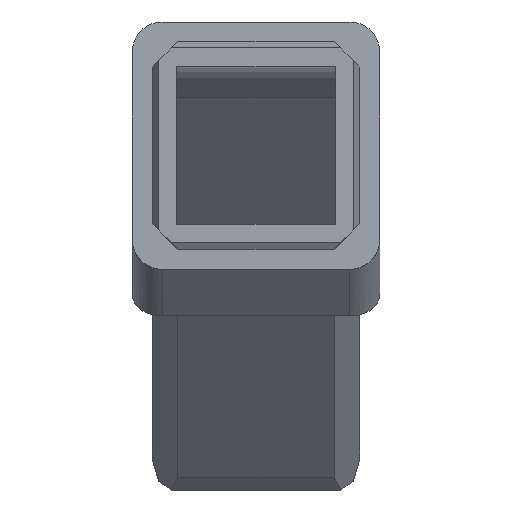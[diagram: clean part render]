
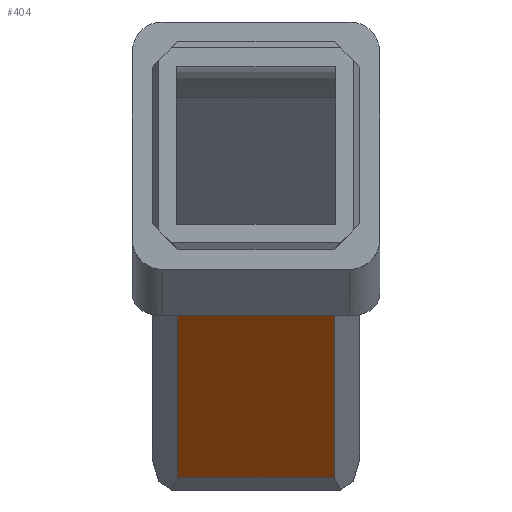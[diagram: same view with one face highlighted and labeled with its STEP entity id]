
A CAD part, top view. The second image highlights one B-rep face of the part: STEP entity #404.
In plain terms, the highlighted planar face has unit normal (0, -0.707, 0.707).
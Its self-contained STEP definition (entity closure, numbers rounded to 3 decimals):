
#17 = DIRECTION ( 'NONE',  ( 1., 0., 0. ) ) ;
#28 = VECTOR ( 'NONE', #494, 1000. ) ;
#48 = VERTEX_POINT ( 'NONE', #751 ) ;
#124 = LINE ( 'NONE', #762, #28 ) ;
#240 = DIRECTION ( 'NONE',  ( 0., -0.707, -0.707 ) ) ;
#287 = VERTEX_POINT ( 'NONE', #704 ) ;
#311 = ORIENTED_EDGE ( 'NONE', *, *, #1170, .T. ) ;
#314 = DIRECTION ( 'NONE',  ( -1., 0., 0. ) ) ;
#404 = ADVANCED_FACE ( 'NONE', ( #1501 ), #586, .T. ) ;
#430 = CARTESIAN_POINT ( 'NONE',  ( 10.5, -15.783, -40.253 ) ) ;
#451 = ORIENTED_EDGE ( 'NONE', *, *, #1130, .T. ) ;
#476 = AXIS2_PLACEMENT_3D ( 'NONE', #878, #1382, #240 ) ;
#494 = DIRECTION ( 'NONE',  ( 0., -0.707, -0.707 ) ) ;
#584 = EDGE_CURVE ( 'NONE', #847, #48, #948, .T. ) ;
#586 = PLANE ( 'NONE',  #476 ) ;
#704 = CARTESIAN_POINT ( 'NONE',  ( -7.9, -15.783, -40.253 ) ) ;
#751 = CARTESIAN_POINT ( 'NONE',  ( 7.9, -15.783, -40.253 ) ) ;
#762 = CARTESIAN_POINT ( 'NONE',  ( -7.9, -15.783, -40.253 ) ) ;
#771 = CARTESIAN_POINT ( 'NONE',  ( 10.5, -33.46, -57.931 ) ) ;
#839 = EDGE_LOOP ( 'NONE', ( #311, #1201, #1351, #451 ) ) ;
#847 = VERTEX_POINT ( 'NONE', #1398 ) ;
#878 = CARTESIAN_POINT ( 'NONE',  ( 10.5, -15.783, -40.253 ) ) ;
#886 = VECTOR ( 'NONE', #314, 1000. ) ;
#948 = LINE ( 'NONE', #1078, #1148 ) ;
#1078 = CARTESIAN_POINT ( 'NONE',  ( 7.9, -15.783, -40.253 ) ) ;
#1130 = EDGE_CURVE ( 'NONE', #48, #287, #1600, .T. ) ;
#1148 = VECTOR ( 'NONE', #1203, 1000. ) ;
#1170 = EDGE_CURVE ( 'NONE', #287, #1199, #124, .T. ) ;
#1199 = VERTEX_POINT ( 'NONE', #1409 ) ;
#1201 = ORIENTED_EDGE ( 'NONE', *, *, #1565, .T. ) ;
#1203 = DIRECTION ( 'NONE',  ( 0., 0.707, 0.707 ) ) ;
#1351 = ORIENTED_EDGE ( 'NONE', *, *, #584, .T. ) ;
#1382 = DIRECTION ( 'NONE',  ( 0., -0.707, 0.707 ) ) ;
#1388 = VECTOR ( 'NONE', #17, 1000. ) ;
#1398 = CARTESIAN_POINT ( 'NONE',  ( 7.9, -33.46, -57.931 ) ) ;
#1409 = CARTESIAN_POINT ( 'NONE',  ( -7.9, -33.46, -57.931 ) ) ;
#1501 = FACE_OUTER_BOUND ( 'NONE', #839, .T. ) ;
#1516 = LINE ( 'NONE', #771, #1388 ) ;
#1565 = EDGE_CURVE ( 'NONE', #1199, #847, #1516, .T. ) ;
#1600 = LINE ( 'NONE', #430, #886 ) ;
